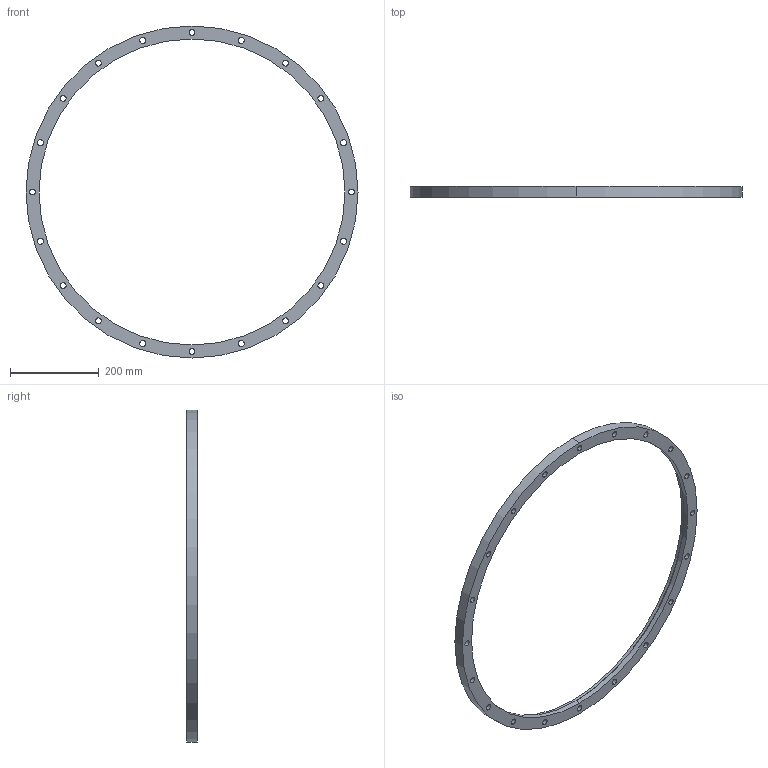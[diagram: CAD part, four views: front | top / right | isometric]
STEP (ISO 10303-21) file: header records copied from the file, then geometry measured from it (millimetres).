
FILE_DESCRIPTION (( 'STEP AP214' ), '1' );
FILE_NAME ('W5UEF630.STEP', '2021-02-02T11:58:32', ( '' ), ( '' ), 'SwSTEP 2.0', 'SolidWorks 2020', '' );
FILE_SCHEMA (( 'AUTOMOTIVE_DESIGN' ));
Length unit declared in the file: millimetre
Products named in the file (1): W5UEF630
Bounding box: 750 x 24 x 750 mm (x, y, z)
Volume: 1409203.3 mm3; surface area: 252047.6 mm2
Topology: 1 solids, 1 shells, 50 faces, 140 edges, 92 vertices
Faces by surface type: cylinder 46, torus 2, plane 2
Entity records: 1784 total; most frequent: DIRECTION 336, CARTESIAN_POINT 283, ORIENTED_EDGE 280, AXIS2_PLACEMENT_3D 145, EDGE_CURVE 140, CIRCLE 94, VERTEX_POINT 92, EDGE_LOOP 92
